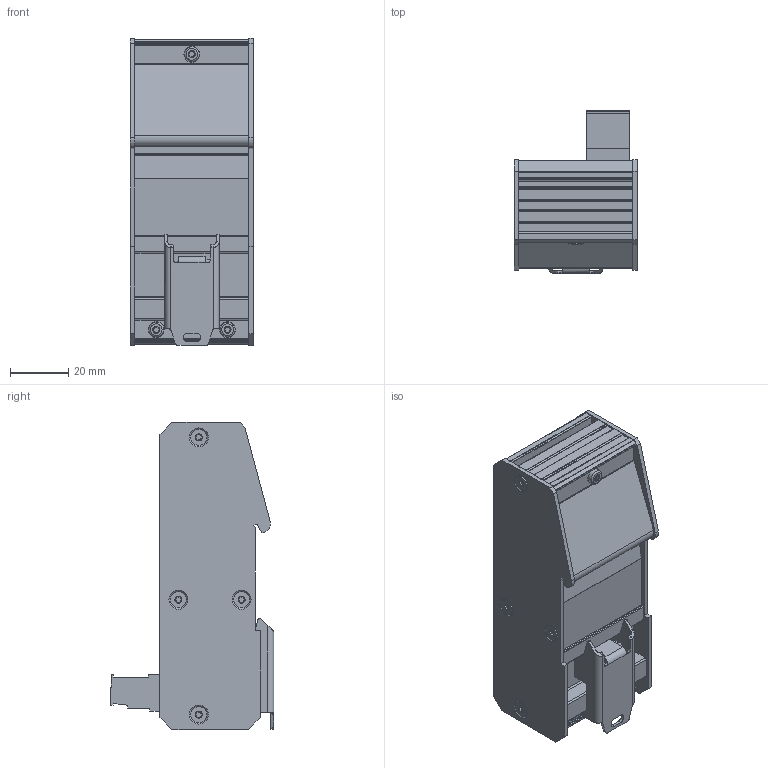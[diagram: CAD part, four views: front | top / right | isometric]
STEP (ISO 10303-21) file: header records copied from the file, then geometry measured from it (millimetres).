
FILE_DESCRIPTION(('TFLEX Exchange Step'),'2;1');
FILE_NAME('TZCA00502B_NITE-RF5-FE.stp', '2019-10-24T14:30:02+02:00',('User'),('Unknown organisation'),'TFLEX Exchange 2019.0','T-FLEX CAD','Unknown authorisation');
FILE_SCHEMA( ('AUTOMOTIVE_DESIGN { 1 0 10303 214 1 1 1 1 }') );
Length unit declared in the file: millimetre
Products named in the file (1): TZCA00502B_NITE-RF5-FE
Bounding box: 42.1 x 55.9 x 105 mm (x, y, z)
Volume: 125078.7 mm3; surface area: 38715.8 mm2
Topology: 36 solids, 42 shells, 1788 faces, 4850 edges, 3233 vertices
Faces by surface type: plane 1131, cylinder 499, bspline 109, torus 25, cone 19, extrusion 5
Full cylindrical faces by diameter (mm): 0.5 x40, 1.2 x12, 1.3 x3, 2.2 x3, 3 x11, 3.2 x4, 3.75 x3, 3.95 x3, 5 x3, 5.4 x3, 5.5 x8
Entity records: 66489 total; most frequent: CARTESIAN_POINT 23296, ORIENTED_EDGE 9620, DIRECTION 7436, EDGE_CURVE 4810, VERTEX_POINT 3233, AXIS2_PLACEMENT_3D 2733, EDGE_LOOP 1981, FACE_BOUND 1981
